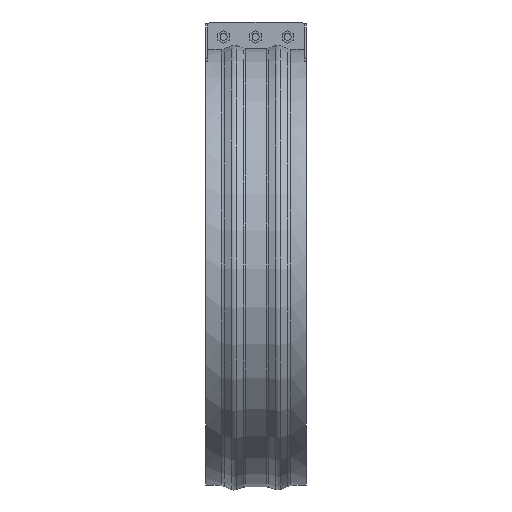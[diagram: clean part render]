
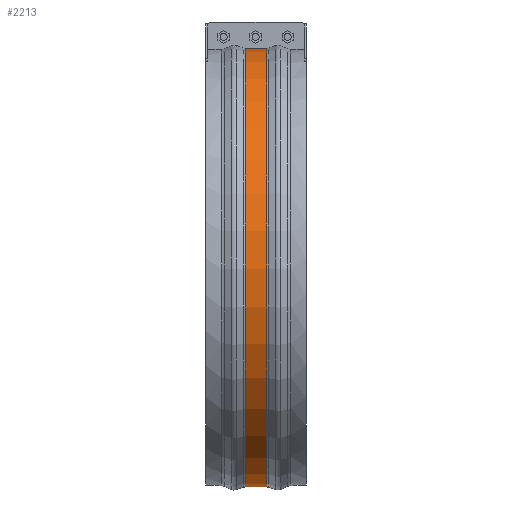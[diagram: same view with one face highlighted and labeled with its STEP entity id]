
A CAD part, front view. The second image highlights one B-rep face of the part: STEP entity #2213.
In plain terms, the highlighted cylindrical face has radius 695.627 mm (diameter 1391.25 mm), a partial arc.
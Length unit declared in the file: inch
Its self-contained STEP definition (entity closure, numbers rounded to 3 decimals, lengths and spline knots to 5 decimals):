
#251=FACE_OUTER_BOUND('',#376,.T.);
#376=EDGE_LOOP('',(#1832,#1833,#1834,#1835));
#572=LINE('',#3592,#763);
#581=LINE('',#3669,#772);
#763=VECTOR('',#2901,0.3937);
#772=VECTOR('',#2914,0.3937);
#830=CIRCLE('',#2392,27.38689);
#831=CIRCLE('',#2394,27.38689);
#1031=VERTEX_POINT('',#3584);
#1032=VERTEX_POINT('',#3591);
#1043=VERTEX_POINT('',#3661);
#1044=VERTEX_POINT('',#3668);
#1304=EDGE_CURVE('',#1032,#1031,#572,.T.);
#1319=EDGE_CURVE('',#1044,#1043,#581,.T.);
#1330=EDGE_CURVE('',#1032,#1043,#830,.T.);
#1331=EDGE_CURVE('',#1031,#1044,#831,.T.);
#1832=ORIENTED_EDGE('',*,*,#1304,.T.);
#1833=ORIENTED_EDGE('',*,*,#1331,.T.);
#1834=ORIENTED_EDGE('',*,*,#1319,.T.);
#1835=ORIENTED_EDGE('',*,*,#1330,.F.);
#2006=CYLINDRICAL_SURFACE('',#2393,27.38689);
#2213=ADVANCED_FACE('',(#251),#2006,.T.);
#2392=AXIS2_PLACEMENT_3D('',#3713,#2937,#2938);
#2393=AXIS2_PLACEMENT_3D('',#3714,#2939,#2940);
#2394=AXIS2_PLACEMENT_3D('',#3715,#2941,#2942);
#2901=DIRECTION('',(-1.,0.,0.));
#2914=DIRECTION('',(1.,0.,0.));
#2937=DIRECTION('center_axis',(1.,0.,0.));
#2938=DIRECTION('ref_axis',(0.,0.,-1.));
#2939=DIRECTION('center_axis',(1.,0.,0.));
#2940=DIRECTION('ref_axis',(0.,0.,
-1.));
#2941=DIRECTION('center_axis',(1.,0.,0.));
#2942=DIRECTION('ref_axis',(0.,0.,-1.));
#3584=CARTESIAN_POINT('',(-1.31451,-0.375,27.38432));
#3591=CARTESIAN_POINT('',(1.31451,-0.375,27.38432));
#3592=CARTESIAN_POINT('',(0.,-0.375,27.38432));
#3661=CARTESIAN_POINT('',(1.31451,0.375,27.38432));
#3668=CARTESIAN_POINT('',(-1.31451,0.375,27.38432));
#3669=CARTESIAN_POINT('',(0.,0.375,27.38432));
#3713=CARTESIAN_POINT('Origin',(1.31451,0.,0.));
#3714=CARTESIAN_POINT('Origin',(0.,0.,0.));
#3715=CARTESIAN_POINT('Origin',(-1.31451,0.,
0.));
